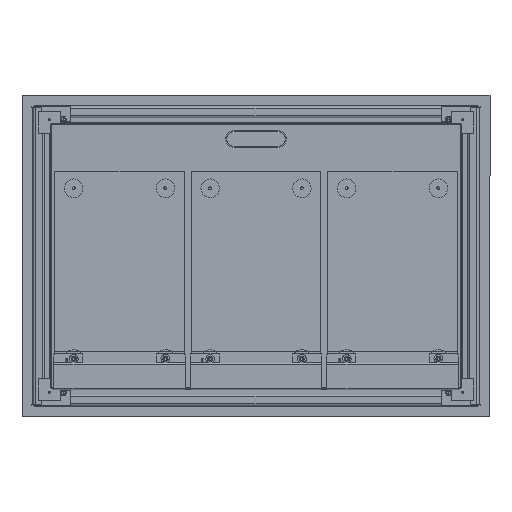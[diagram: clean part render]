
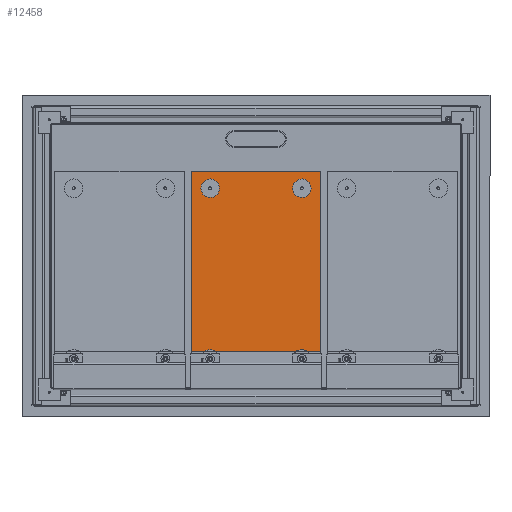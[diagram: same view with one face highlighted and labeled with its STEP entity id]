
A CAD part, front view. The second image highlights one B-rep face of the part: STEP entity #12458.
In plain terms, the highlighted planar face has unit normal (0, -1, 0).
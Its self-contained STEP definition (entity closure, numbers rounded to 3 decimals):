
#36 = AXIS2_PLACEMENT_3D ( 'NONE', #40044, #61514, #1659 ) ;
#953 = EDGE_CURVE ( 'NONE', #67718, #27890, #40439, .T. ) ;
#1659 = DIRECTION ( 'NONE',  ( 0., 0., 1. ) ) ;
#1675 = DIRECTION ( 'NONE',  ( 0., 1., 0. ) ) ;
#2408 = CARTESIAN_POINT ( 'NONE',  ( 198.24, -44., 152.914 ) ) ;
#2551 = VERTEX_POINT ( 'NONE', #58906 ) ;
#3482 = VECTOR ( 'NONE', #10378, 1000. ) ;
#4522 = ORIENTED_EDGE ( 'NONE', *, *, #44584, .T. ) ;
#4645 = LINE ( 'NONE', #43018, #3482 ) ;
#4855 = CARTESIAN_POINT ( 'NONE',  ( -37.393, -44., 134.575 ) ) ;
#5803 = EDGE_LOOP ( 'NONE', ( #68411, #4522 ) ) ;
#10193 = AXIS2_PLACEMENT_3D ( 'NONE', #12060, #1675, #11004 ) ;
#10378 = DIRECTION ( 'NONE',  ( 0., 0., -1. ) ) ;
#10419 = DIRECTION ( 'NONE',  ( 0., 1., 0. ) ) ;
#11004 = DIRECTION ( 'NONE',  ( 0.481, 0., -0.877 ) ) ;
#11962 = CARTESIAN_POINT ( 'NONE',  ( -66.76, -44., 152.914 ) ) ;
#12060 = CARTESIAN_POINT ( 'NONE',  ( -28.26, -44., 117.914 ) ) ;
#12458 = ADVANCED_FACE ( 'NONE', ( #18785, #46439, #12758 ), #50431, .T. ) ;
#12758 = FACE_OUTER_BOUND ( 'NONE', #38398, .T. ) ;
#13145 = DIRECTION ( 'NONE',  ( -1., 0., 0. ) ) ;
#13442 = VECTOR ( 'NONE', #50092, 1000. ) ;
#13857 = ORIENTED_EDGE ( 'NONE', *, *, #62208, .T. ) ;
#14368 = CIRCLE ( 'NONE', #30400, 19. ) ;
#15829 = DIRECTION ( 'NONE',  ( 0., 1., 0. ) ) ;
#16497 = CARTESIAN_POINT ( 'NONE',  ( 198.24, -44., -251.086 ) ) ;
#18488 = VERTEX_POINT ( 'NONE', #48474 ) ;
#18785 = FACE_BOUND ( 'NONE', #55521, .T. ) ;
#19202 = VERTEX_POINT ( 'NONE', #60393 ) ;
#20123 = AXIS2_PLACEMENT_3D ( 'NONE', #59541, #10419, #54174 ) ;
#21074 = ORIENTED_EDGE ( 'NONE', *, *, #42073, .F. ) ;
#22060 = EDGE_CURVE ( 'NONE', #67937, #70348, #62741, .T. ) ;
#22477 = LINE ( 'NONE', #61900, #13442 ) ;
#25437 = CARTESIAN_POINT ( 'NONE',  ( 198.24, -44., 152.914 ) ) ;
#27335 = DIRECTION ( 'NONE',  ( 0.481, 0., -0.877 ) ) ;
#27686 = CARTESIAN_POINT ( 'NONE',  ( 150.607, -44., 134.575 ) ) ;
#27890 = VERTEX_POINT ( 'NONE', #11962 ) ;
#28537 = CIRCLE ( 'NONE', #10193, 19. ) ;
#29770 = DIRECTION ( 'NONE',  ( 0., 0., 1. ) ) ;
#30400 = AXIS2_PLACEMENT_3D ( 'NONE', #55123, #60497, #45413 ) ;
#32935 = VECTOR ( 'NONE', #13145, 1000. ) ;
#34763 = EDGE_CURVE ( 'NONE', #19202, #48589, #14368, .T. ) ;
#36140 = EDGE_CURVE ( 'NONE', #48589, #19202, #68198, .T. ) ;
#37635 = AXIS2_PLACEMENT_3D ( 'NONE', #60297, #15829, #27335 ) ;
#38398 = EDGE_LOOP ( 'NONE', ( #21074, #13857, #53932, #57097 ) ) ;
#40044 = CARTESIAN_POINT ( 'NONE',  ( 198.24, -44., 152.914 ) ) ;
#40132 = EDGE_CURVE ( 'NONE', #27890, #18488, #4645, .T. ) ;
#40439 = LINE ( 'NONE', #2408, #32935 ) ;
#42073 = EDGE_CURVE ( 'NONE', #2551, #18488, #22477, .T. ) ;
#43018 = CARTESIAN_POINT ( 'NONE',  ( -66.76, -44., -251.086 ) ) ;
#44584 = EDGE_CURVE ( 'NONE', #70348, #67937, #28537, .T. ) ;
#45413 = DIRECTION ( 'NONE',  ( 0.481, 0., -0.877 ) ) ;
#46439 = FACE_BOUND ( 'NONE', #5803, .T. ) ;
#48474 = CARTESIAN_POINT ( 'NONE',  ( -66.76, -44., -217.086 ) ) ;
#48589 = VERTEX_POINT ( 'NONE', #27686 ) ;
#50092 = DIRECTION ( 'NONE',  ( -1., 0., 0. ) ) ;
#50431 = PLANE ( 'NONE',  #36 ) ;
#53932 = ORIENTED_EDGE ( 'NONE', *, *, #953, .T. ) ;
#54174 = DIRECTION ( 'NONE',  ( 0.481, 0., -0.877 ) ) ;
#55123 = CARTESIAN_POINT ( 'NONE',  ( 159.74, -44., 117.914 ) ) ;
#55521 = EDGE_LOOP ( 'NONE', ( #67423, #57614 ) ) ;
#57097 = ORIENTED_EDGE ( 'NONE', *, *, #40132, .T. ) ;
#57614 = ORIENTED_EDGE ( 'NONE', *, *, #36140, .T. ) ;
#58906 = CARTESIAN_POINT ( 'NONE',  ( 198.24, -44., -217.086 ) ) ;
#59541 = CARTESIAN_POINT ( 'NONE',  ( 159.74, -44., 117.914 ) ) ;
#60297 = CARTESIAN_POINT ( 'NONE',  ( -28.26, -44., 117.914 ) ) ;
#60393 = CARTESIAN_POINT ( 'NONE',  ( 168.872, -44., 101.252 ) ) ;
#60497 = DIRECTION ( 'NONE',  ( 0., 1., 0. ) ) ;
#61514 = DIRECTION ( 'NONE',  ( 0., -1., 0. ) ) ;
#61900 = CARTESIAN_POINT ( 'NONE',  ( 198.24, -44., -217.086 ) ) ;
#62208 = EDGE_CURVE ( 'NONE', #2551, #67718, #65609, .T. ) ;
#62741 = CIRCLE ( 'NONE', #37635, 19. ) ;
#65168 = CARTESIAN_POINT ( 'NONE',  ( -19.128, -44., 101.252 ) ) ;
#65609 = LINE ( 'NONE', #16497, #67558 ) ;
#67423 = ORIENTED_EDGE ( 'NONE', *, *, #34763, .T. ) ;
#67558 = VECTOR ( 'NONE', #29770, 1000. ) ;
#67718 = VERTEX_POINT ( 'NONE', #25437 ) ;
#67937 = VERTEX_POINT ( 'NONE', #65168 ) ;
#68198 = CIRCLE ( 'NONE', #20123, 19. ) ;
#68411 = ORIENTED_EDGE ( 'NONE', *, *, #22060, .T. ) ;
#70348 = VERTEX_POINT ( 'NONE', #4855 ) ;
